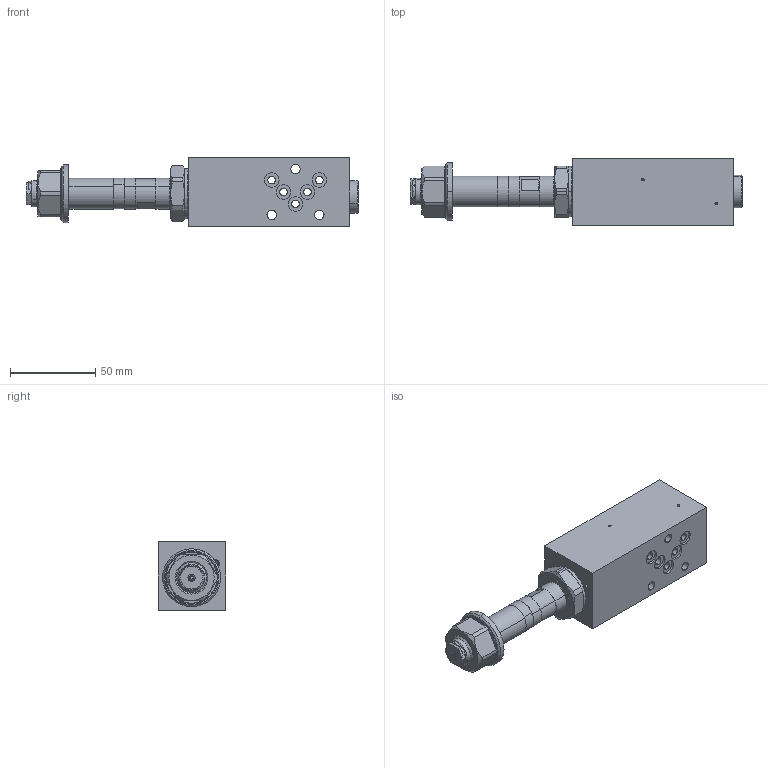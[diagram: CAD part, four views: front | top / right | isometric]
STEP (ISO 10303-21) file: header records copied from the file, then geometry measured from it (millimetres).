
FILE_DESCRIPTION (( 'STEP AP214' ), '1' );
FILE_NAME ('B.BSA04-P.STEP', '2017-03-23T14:59:38', ( '' ), ( '' ), 'SwSTEP 2.0', 'SolidWorks 2016', '' );
FILE_SCHEMA (( 'AUTOMOTIVE_DESIGN' ));
Length unit declared in the file: millimetre
Products named in the file (1): B.BSA04-P
Bounding box: 195 x 39.5 x 40 mm (x, y, z)
Volume: 180143.4 mm3; surface area: 34353.1 mm2
Topology: 2 solids, 8 shells, 316 faces, 765 edges, 481 vertices
Faces by surface type: cylinder 117, plane 96, cone 75, torus 24, sphere 4
Entity records: 13027 total; most frequent: CARTESIAN_POINT 2196, DIRECTION 1666, ORIENTED_EDGE 1506, EDGE_CURVE 753, AXIS2_PLACEMENT_3D 691, VERTEX_POINT 481, CIRCLE 374, EDGE_LOOP 362
